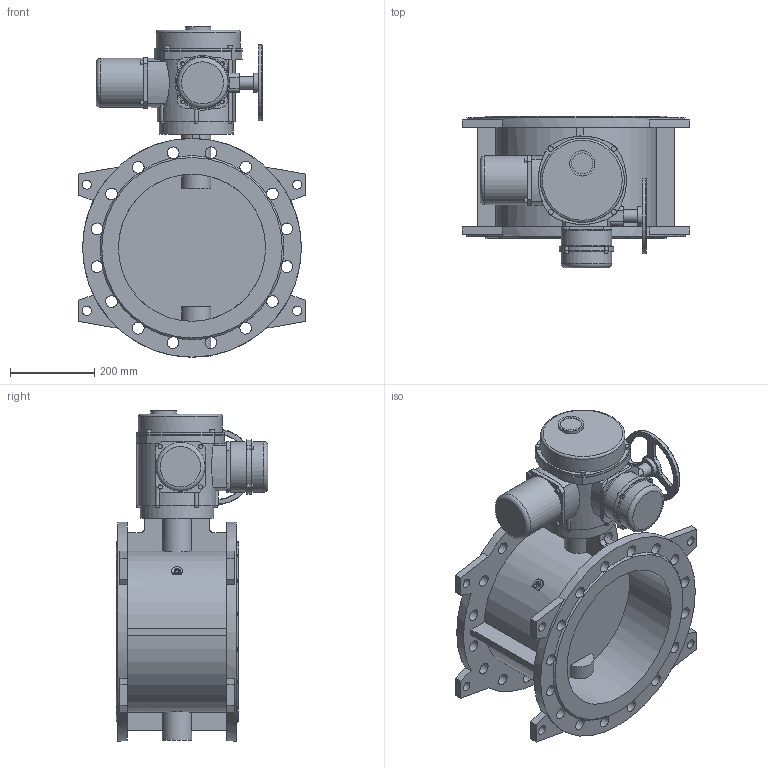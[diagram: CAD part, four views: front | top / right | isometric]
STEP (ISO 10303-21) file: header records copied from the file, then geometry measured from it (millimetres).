
FILE_DESCRIPTION(('STEP AP203'), '1');
FILE_NAME('青蜮铕 023F.Z DN350 PN16_菹_QT.Z120(F14)-180', '', ('UNSPECIFIED'), ('UNSPECIFIED'), 'ASCON STEP Converter 1.6', 'ASCON Math Kernel', '');
FILE_SCHEMA(('CONFIG_CONTROL_DESIGN'));
Length unit declared in the file: millimetre
Bounding box: 540 x 361 x 785 mm (x, y, z)
Volume: 25695287.2 mm3; surface area: 1924514.8 mm2
Topology: 1 solids, 1 shells, 390 faces, 1073 edges, 680 vertices
Faces by surface type: cylinder 177, plane 148, torus 47, cone 10, bspline 8
Full cylindrical faces by diameter (mm): 8 x10, 10 x4, 10.106 x4, 12 x4, 12.386 x1, 18 x4, 22 x8, 28 x32, 30 x1, 45 x1, 50 x1, 60 x1, 70 x1, 116 x1, 120 x2, 175 x1, 180 x1, 200 x1, 350 x2, 520 x2
Entity records: 20699 total; most frequent: CARTESIAN_POINT 7650, DIRECTION 2176, ORIENTED_EDGE 1920, EDGE_CURVE 960, AXIS2_PLACEMENT_3D 919, VERTEX_POINT 675, EDGE_LOOP 582, CIRCLE 536
